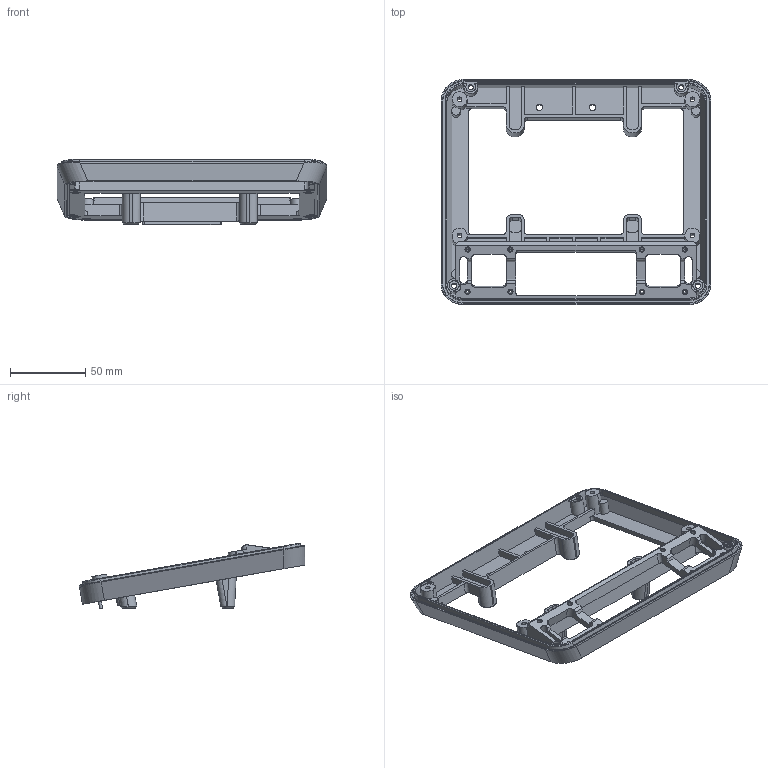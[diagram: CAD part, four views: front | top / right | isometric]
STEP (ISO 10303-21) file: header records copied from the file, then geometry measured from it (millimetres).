
FILE_DESCRIPTION((''),'2;1');
FILE_NAME('TOU-ZK','2025-07-12T10:20:41',('Administrator'),(''),'CREO PARAMETRIC BY PTC INC, 2022073','CREO PARAMETRIC BY PTC INC, 2022073','');
FILE_SCHEMA(('CONFIG_CONTROL_DESIGN'));
Length unit declared in the file: millimetre
Products named in the file (1): TOU-ZK
Bounding box: 179.56 x 150.15 x 43.62 mm (x, y, z)
Volume: 82193.2 mm3; surface area: 64290.7 mm2
Topology: 1 solids, 1 shells, 588 faces, 1711 edges, 1126 vertices
Faces by surface type: plane 272, cylinder 202, cone 57, bspline 33, extrusion 24
Entity records: 22812 total; most frequent: CARTESIAN_POINT 7258, ORIENTED_EDGE 3422, DIRECTION 3049, EDGE_CURVE 1711, VERTEX_POINT 1126, AXIS2_PLACEMENT_3D 1034, VECTOR 981, LINE 957
